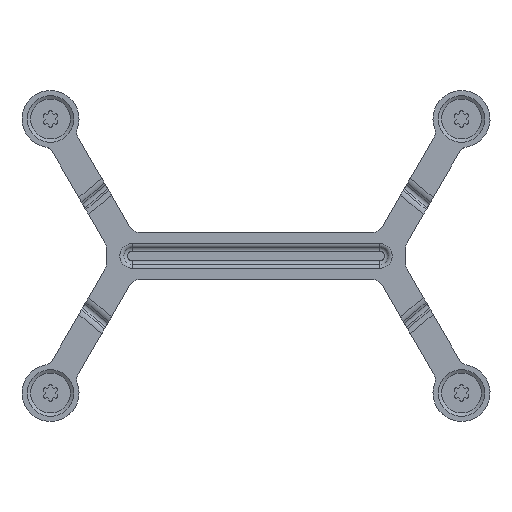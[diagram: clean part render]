
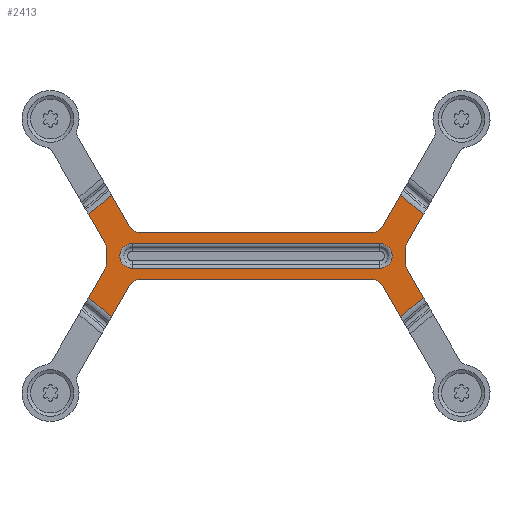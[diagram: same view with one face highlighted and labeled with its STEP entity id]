
A CAD part, top view. The second image highlights one B-rep face of the part: STEP entity #2413.
In plain terms, the highlighted planar face has unit normal (0, 0, 1).
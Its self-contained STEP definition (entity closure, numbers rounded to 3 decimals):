
#93=FACE_BOUND('',#313,.T.);
#105=PLANE('',#2588);
#176=FACE_OUTER_BOUND('',#312,.T.);
#312=EDGE_LOOP('',(#1628,#1629,#1630,#1631,#1632,#1633,#1634,#1635,#1636,
#1637,#1638,#1639,#1640,#1641,#1642,#1643,#1644,#1645,#1646,#1647,#1648,
#1649,#1650,#1651));
#313=EDGE_LOOP('',(#1652,#1653,#1654,#1655));
#455=LINE('',#3679,#674);
#456=LINE('',#3690,#675);
#459=LINE('',#3708,#678);
#460=LINE('',#3710,#679);
#461=LINE('',#3714,#680);
#462=LINE('',#3718,#681);
#463=LINE('',#3720,#682);
#464=LINE('',#3722,#683);
#465=LINE('',#3726,#684);
#466=LINE('',#3730,#685);
#467=LINE('',#3732,#686);
#468=LINE('',#3734,#687);
#469=LINE('',#3738,#688);
#470=LINE('',#3742,#689);
#471=LINE('',#3744,#690);
#472=LINE('',#3746,#691);
#473=LINE('',#3750,#692);
#474=LINE('',#3753,#693);
#674=VECTOR('',#2873,10.);
#675=VECTOR('',#2886,10.);
#678=VECTOR('',#2909,10.);
#679=VECTOR('',#2910,10.);
#680=VECTOR('',#2913,10.);
#681=VECTOR('',#2916,10.);
#682=VECTOR('',#2917,10.);
#683=VECTOR('',#2918,10.);
#684=VECTOR('',#2921,10.);
#685=VECTOR('',#2924,10.);
#686=VECTOR('',#2925,10.);
#687=VECTOR('',#2926,10.);
#688=VECTOR('',#2929,10.);
#689=VECTOR('',#2932,10.);
#690=VECTOR('',#2933,10.);
#691=VECTOR('',#2934,10.);
#692=VECTOR('',#2937,10.);
#693=VECTOR('',#2940,10.);
#895=CIRCLE('',#2575,1.31);
#898=CIRCLE('',#2580,1.31);
#904=CIRCLE('',#2589,1.);
#905=CIRCLE('',#2590,1.);
#906=CIRCLE('',#2591,1.);
#907=CIRCLE('',#2592,1.);
#908=CIRCLE('',#2593,1.);
#909=CIRCLE('',#2594,1.);
#910=CIRCLE('',#2595,1.);
#911=CIRCLE('',#2596,1.);
#994=VERTEX_POINT('',#3672);
#997=VERTEX_POINT('',#3677);
#999=VERTEX_POINT('',#3682);
#1001=VERTEX_POINT('',#3688);
#1005=VERTEX_POINT('',#3706);
#1006=VERTEX_POINT('',#3707);
#1007=VERTEX_POINT('',#3709);
#1008=VERTEX_POINT('',#3711);
#1009=VERTEX_POINT('',#3713);
#1010=VERTEX_POINT('',#3715);
#1011=VERTEX_POINT('',#3717);
#1012=VERTEX_POINT('',#3719);
#1013=VERTEX_POINT('',#3721);
#1014=VERTEX_POINT('',#3723);
#1015=VERTEX_POINT('',#3725);
#1016=VERTEX_POINT('',#3727);
#1017=VERTEX_POINT('',#3729);
#1018=VERTEX_POINT('',#3731);
#1019=VERTEX_POINT('',#3733);
#1020=VERTEX_POINT('',#3735);
#1021=VERTEX_POINT('',#3737);
#1022=VERTEX_POINT('',#3739);
#1023=VERTEX_POINT('',#3741);
#1024=VERTEX_POINT('',#3743);
#1025=VERTEX_POINT('',#3745);
#1026=VERTEX_POINT('',#3747);
#1027=VERTEX_POINT('',#3749);
#1028=VERTEX_POINT('',#3751);
#1238=EDGE_CURVE('',#997,#994,#455,.T.);
#1240=EDGE_CURVE('',#999,#997,#895,.T.);
#1243=EDGE_CURVE('',#1001,#999,#456,.T.);
#1245=EDGE_CURVE('',#994,#1001,#898,.T.);
#1252=EDGE_CURVE('',#1005,#1006,#459,.T.);
#1253=EDGE_CURVE('',#1005,#1007,#460,.T.);
#1254=EDGE_CURVE('',#1008,#1007,#904,.T.);
#1255=EDGE_CURVE('',#1008,#1009,#461,.T.);
#1256=EDGE_CURVE('',#1009,#1010,#905,.T.);
#1257=EDGE_CURVE('',#1011,#1010,#462,.T.);
#1258=EDGE_CURVE('',#1011,#1012,#463,.T.);
#1259=EDGE_CURVE('',#1013,#1012,#464,.T.);
#1260=EDGE_CURVE('',#1013,#1014,#906,.T.);
#1261=EDGE_CURVE('',#1015,#1014,#465,.T.);
#1262=EDGE_CURVE('',#1016,#1015,#907,.T.);
#1263=EDGE_CURVE('',#1016,#1017,#466,.T.);
#1264=EDGE_CURVE('',#1018,#1017,#467,.T.);
#1265=EDGE_CURVE('',#1018,#1019,#468,.T.);
#1266=EDGE_CURVE('',#1020,#1019,#908,.T.);
#1267=EDGE_CURVE('',#1021,#1020,#469,.T.);
#1268=EDGE_CURVE('',#1021,#1022,#909,.T.);
#1269=EDGE_CURVE('',#1023,#1022,#470,.T.);
#1270=EDGE_CURVE('',#1023,#1024,#471,.T.);
#1271=EDGE_CURVE('',#1025,#1024,#472,.T.);
#1272=EDGE_CURVE('',#1025,#1026,#910,.T.);
#1273=EDGE_CURVE('',#1027,#1026,#473,.T.);
#1274=EDGE_CURVE('',#1028,#1027,#911,.T.);
#1275=EDGE_CURVE('',#1028,#1006,#474,.T.);
#1628=ORIENTED_EDGE('',*,*,#1252,.F.);
#1629=ORIENTED_EDGE('',*,*,#1253,.T.);
#1630=ORIENTED_EDGE('',*,*,#1254,.F.);
#1631=ORIENTED_EDGE('',*,*,#1255,.T.);
#1632=ORIENTED_EDGE('',*,*,#1256,.T.);
#1633=ORIENTED_EDGE('',*,*,#1257,.F.);
#1634=ORIENTED_EDGE('',*,*,#1258,.T.);
#1635=ORIENTED_EDGE('',*,*,#1259,.F.);
#1636=ORIENTED_EDGE('',*,*,#1260,.T.);
#1637=ORIENTED_EDGE('',*,*,#1261,.F.);
#1638=ORIENTED_EDGE('',*,*,#1262,.F.);
#1639=ORIENTED_EDGE('',*,*,#1263,.T.);
#1640=ORIENTED_EDGE('',*,*,#1264,.F.);
#1641=ORIENTED_EDGE('',*,*,#1265,.T.);
#1642=ORIENTED_EDGE('',*,*,#1266,.F.);
#1643=ORIENTED_EDGE('',*,*,#1267,.F.);
#1644=ORIENTED_EDGE('',*,*,#1268,.T.);
#1645=ORIENTED_EDGE('',*,*,#1269,.F.);
#1646=ORIENTED_EDGE('',*,*,#1270,.T.);
#1647=ORIENTED_EDGE('',*,*,#1271,.F.);
#1648=ORIENTED_EDGE('',*,*,#1272,.T.);
#1649=ORIENTED_EDGE('',*,*,#1273,.F.);
#1650=ORIENTED_EDGE('',*,*,#1274,.F.);
#1651=ORIENTED_EDGE('',*,*,#1275,.T.);
#1652=ORIENTED_EDGE('',*,*,#1238,.F.);
#1653=ORIENTED_EDGE('',*,*,#1240,.F.);
#1654=ORIENTED_EDGE('',*,*,#1243,.F.);
#1655=ORIENTED_EDGE('',*,*,#1245,.F.);
#2413=ADVANCED_FACE('',(#176,#93),#105,.T.);
#2575=AXIS2_PLACEMENT_3D('',#3684,#2878,#2879);
#2580=AXIS2_PLACEMENT_3D('',#3693,#2890,#2891);
#2588=AXIS2_PLACEMENT_3D('',#3705,#2907,#2908);
#2589=AXIS2_PLACEMENT_3D('',#3712,#2911,#2912);
#2590=AXIS2_PLACEMENT_3D('',#3716,#2914,#2915);
#2591=AXIS2_PLACEMENT_3D('',#3724,#2919,#2920);
#2592=AXIS2_PLACEMENT_3D('',#3728,#2922,#2923);
#2593=AXIS2_PLACEMENT_3D('',#3736,#2927,#2928);
#2594=AXIS2_PLACEMENT_3D('',#3740,#2930,#2931);
#2595=AXIS2_PLACEMENT_3D('',#3748,#2935,#2936);
#2596=AXIS2_PLACEMENT_3D('',#3752,#2938,#2939);
#2873=DIRECTION('',(-1.,0.,0.));
#2878=DIRECTION('center_axis',(0.,0.,1.));
#2879=DIRECTION('ref_axis',(1.,0.,0.));
#2886=DIRECTION('',(1.,0.,0.));
#2890=DIRECTION('center_axis',(0.,0.,1.));
#2891=DIRECTION('ref_axis',(-1.,0.,0.));
#2907=DIRECTION('center_axis',(0.,0.,1.));
#2908=DIRECTION('ref_axis',(1.,0.,0.));
#2909=DIRECTION('',(0.766,-0.643,0.));
#2910=DIRECTION('',(-0.5,-0.866,0.));
#2911=DIRECTION('center_axis',(0.,0.,1.));
#2912=DIRECTION('ref_axis',(0.5,-0.866,0.));
#2913=DIRECTION('',(-1.,0.,0.));
#2914=DIRECTION('center_axis',(0.,0.,-1.));
#2915=DIRECTION('ref_axis',(-0.5,-0.866,0.));
#2916=DIRECTION('',(0.5,-0.866,0.));
#2917=DIRECTION('',(-0.766,-0.643,0.));
#2918=DIRECTION('',(-0.5,0.866,0.));
#2919=DIRECTION('center_axis',(0.,0.,-1.));
#2920=DIRECTION('ref_axis',(0.966,0.259,0.));
#2921=DIRECTION('',(0.,1.,0.));
#2922=DIRECTION('center_axis',(0.,0.,1.));
#2923=DIRECTION('ref_axis',(0.966,-0.259,0.));
#2924=DIRECTION('',(-0.5,-0.866,0.));
#2925=DIRECTION('',(-0.766,0.643,0.));
#2926=DIRECTION('',(0.5,0.866,0.));
#2927=DIRECTION('center_axis',(0.,0.,1.));
#2928=DIRECTION('ref_axis',(-0.5,0.866,0.));
#2929=DIRECTION('',(-1.,0.,0.));
#2930=DIRECTION('center_axis',(0.,0.,-1.));
#2931=DIRECTION('ref_axis',(0.5,0.866,0.));
#2932=DIRECTION('',(-0.5,0.866,0.));
#2933=DIRECTION('',(0.766,0.643,0.));
#2934=DIRECTION('',(0.5,-0.866,0.));
#2935=DIRECTION('center_axis',(0.,0.,-1.));
#2936=DIRECTION('ref_axis',(-0.966,-0.259,0.));
#2937=DIRECTION('',(0.,-1.,0.));
#2938=DIRECTION('center_axis',(0.,0.,1.));
#2939=DIRECTION('ref_axis',(-0.966,0.259,0.));
#2940=DIRECTION('',(0.5,0.866,0.));
#3672=CARTESIAN_POINT('',(-13.,1.31,0.));
#3677=CARTESIAN_POINT('',(13.,1.31,0.));
#3679=CARTESIAN_POINT('',(-0.35,1.31,0.));
#3682=CARTESIAN_POINT('',(13.,-1.31,0.));
#3684=CARTESIAN_POINT('Origin',(13.,0.,0.));
#3688=CARTESIAN_POINT('',(-13.,-1.31,0.));
#3690=CARTESIAN_POINT('',(12.65,-1.31,0.));
#3693=CARTESIAN_POINT('Origin',(-13.,0.,
0.));
#3705=CARTESIAN_POINT('Origin',(12.3,8.7,0.));
#3706=CARTESIAN_POINT('',(15.184,6.387,0.));
#3707=CARTESIAN_POINT('',(17.595,4.363,0.));
#3708=CARTESIAN_POINT('',(15.507,6.116,0.));
#3709=CARTESIAN_POINT('',(13.228,3.,0.));
#3710=CARTESIAN_POINT('',(12.94,2.5,0.));
#3711=CARTESIAN_POINT('',(12.362,2.5,0.));
#3712=CARTESIAN_POINT('Origin',(12.362,3.5,0.));
#3713=CARTESIAN_POINT('',(-12.362,2.5,0.));
#3714=CARTESIAN_POINT('',(0.,2.5,0.));
#3715=CARTESIAN_POINT('',(-13.228,3.,0.));
#3716=CARTESIAN_POINT('Origin',(-12.362,3.5,0.));
#3717=CARTESIAN_POINT('',(-15.184,6.387,0.));
#3718=CARTESIAN_POINT('',(-12.94,2.5,0.));
#3719=CARTESIAN_POINT('',(-17.595,4.363,0.));
#3720=CARTESIAN_POINT('',(-15.507,6.116,0.));
#3721=CARTESIAN_POINT('',(-15.884,1.4,0.));
#3722=CARTESIAN_POINT('',(-21.658,11.401,0.));
#3723=CARTESIAN_POINT('',(-15.75,0.9,0.));
#3724=CARTESIAN_POINT('Origin',(-16.75,0.9,0.));
#3725=CARTESIAN_POINT('',(-15.75,-0.9,0.));
#3726=CARTESIAN_POINT('',(-15.75,1.168,0.));
#3727=CARTESIAN_POINT('',(-15.884,-1.4,0.));
#3728=CARTESIAN_POINT('Origin',(-16.75,-0.9,0.));
#3729=CARTESIAN_POINT('',(-17.595,-4.363,0.));
#3730=CARTESIAN_POINT('',(-21.658,-11.401,0.));
#3731=CARTESIAN_POINT('',(-15.184,-6.387,0.));
#3732=CARTESIAN_POINT('',(-15.507,-6.116,0.));
#3733=CARTESIAN_POINT('',(-13.228,-3.,0.));
#3734=CARTESIAN_POINT('',(-12.94,-2.5,0.));
#3735=CARTESIAN_POINT('',(-12.362,-2.5,0.));
#3736=CARTESIAN_POINT('Origin',(-12.362,-3.5,0.));
#3737=CARTESIAN_POINT('',(12.362,-2.5,0.));
#3738=CARTESIAN_POINT('',(0.,-2.5,0.));
#3739=CARTESIAN_POINT('',(13.228,-3.,0.));
#3740=CARTESIAN_POINT('Origin',(12.362,-3.5,0.));
#3741=CARTESIAN_POINT('',(15.184,-6.387,0.));
#3742=CARTESIAN_POINT('',(12.94,-2.5,0.));
#3743=CARTESIAN_POINT('',(17.595,-4.363,0.));
#3744=CARTESIAN_POINT('',(15.507,-6.116,0.));
#3745=CARTESIAN_POINT('',(15.884,-1.4,0.));
#3746=CARTESIAN_POINT('',(21.658,-11.401,0.));
#3747=CARTESIAN_POINT('',(15.75,-0.9,0.));
#3748=CARTESIAN_POINT('Origin',(16.75,-0.9,0.));
#3749=CARTESIAN_POINT('',(15.75,0.9,0.));
#3750=CARTESIAN_POINT('',(15.75,-1.168,0.));
#3751=CARTESIAN_POINT('',(15.884,1.4,0.));
#3752=CARTESIAN_POINT('Origin',(16.75,0.9,0.));
#3753=CARTESIAN_POINT('',(21.658,11.401,0.));
